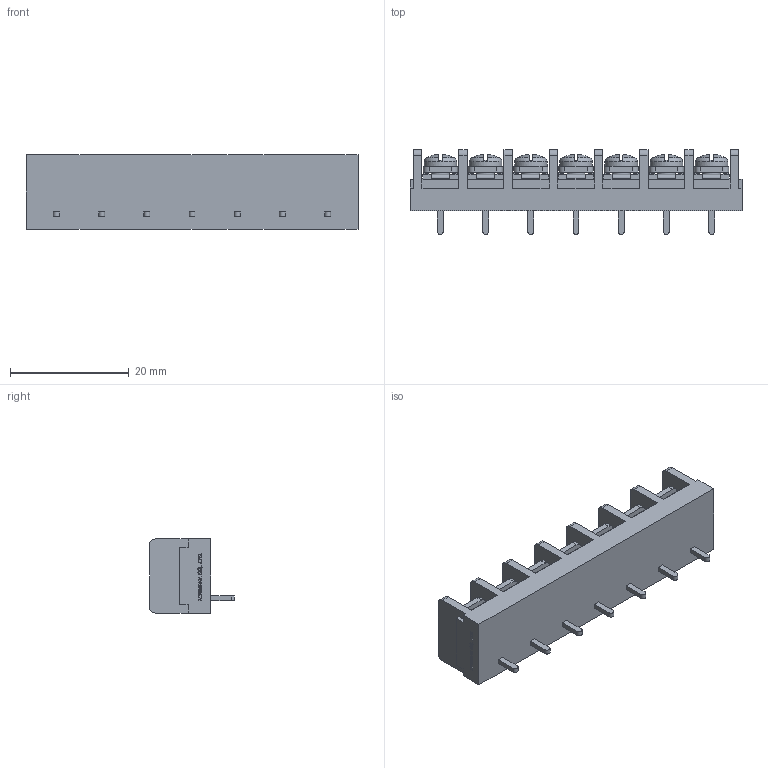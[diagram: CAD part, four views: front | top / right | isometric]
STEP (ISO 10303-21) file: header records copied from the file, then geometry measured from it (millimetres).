
FILE_DESCRIPTION(/* description */ ('Alibre Inc.'),/* implementation_level */ '2;1');
FILE_NAME(/* name */ 'export0',/* time_stamp */ '2015-10-26T17:25:16+09:00',/* author */ (''),/* organization */ (''),/* preprocessor_version */ 'ST-DEVELOPER v14',/* originating_system */ 'Alibre',/* authorisation */ '');
FILE_SCHEMA (('CONFIG_CONTROL_DESIGN'));
Length unit declared in the file: centimetre
Products named in the file (1): ID_1
Bounding box: 55.96 x 14.3 x 12.5 mm (x, y, z)
Volume: 5059.1 mm3; surface area: 4613 mm2
Topology: 1 solids, 1 shells, 1072 faces, 2943 edges, 1941 vertices
Faces by surface type: plane 826, bspline 104, cylinder 86, cone 28, torus 14, sphere 14
Full cylindrical faces by diameter (mm): 3 x7, 5.5 x7
Entity records: 32380 total; most frequent: CARTESIAN_POINT 7298, ORIENTED_EDGE 5774, DIRECTION 3899, EDGE_CURVE 2887, VECTOR 2080, LINE 2080, VERTEX_POINT 1913, AXIS2_PLACEMENT_3D 1287
